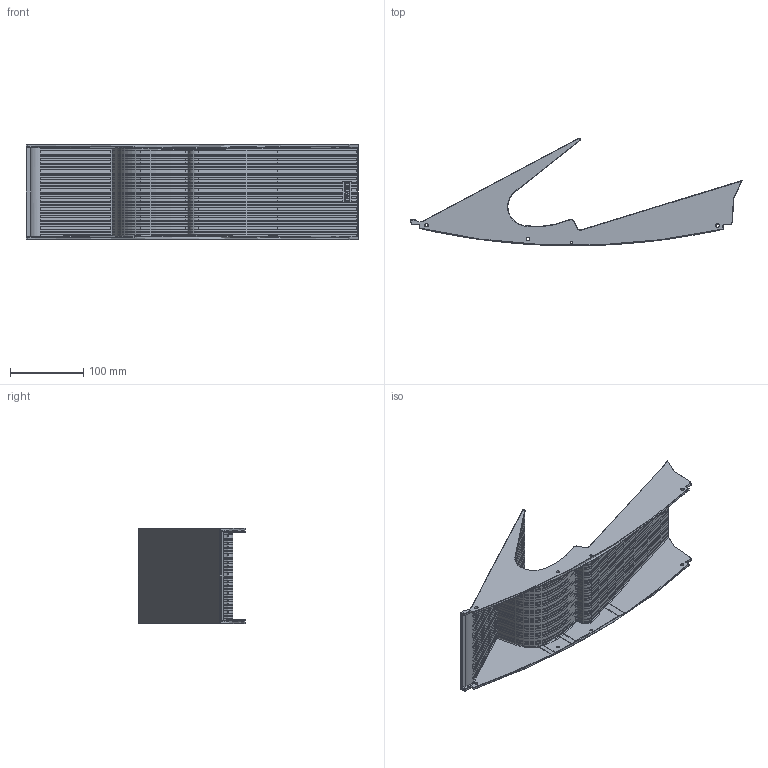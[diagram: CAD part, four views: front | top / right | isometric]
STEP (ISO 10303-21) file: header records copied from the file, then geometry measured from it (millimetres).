
FILE_DESCRIPTION (( 'STEP AP203' ), '1' );
FILE_NAME ('Portascarpe.STEP', '2023-02-13T17:03:16', ( '' ), ( '' ), 'SwSTEP 2.0', 'SolidWorks 2023', '' );
FILE_SCHEMA (( 'CONFIG_CONTROL_DESIGN' ));
Length unit declared in the file: millimetre
Products named in the file (1): Portascarpe
Bounding box: 454.01 x 146.94 x 130 mm (x, y, z)
Volume: 365627.5 mm3; surface area: 245029 mm2
Topology: 1 solids, 1 shells, 1010 faces, 2502 edges, 1487 vertices
Faces by surface type: plane 474, cylinder 389, bspline 93, torus 20, sphere 18, cone 16
Entity records: 30710 total; most frequent: CARTESIAN_POINT 7708, ORIENTED_EDGE 4964, DIRECTION 4589, EDGE_CURVE 2482, LINE 1633, VECTOR 1633, VERTEX_POINT 1485, AXIS2_PLACEMENT_3D 1478
